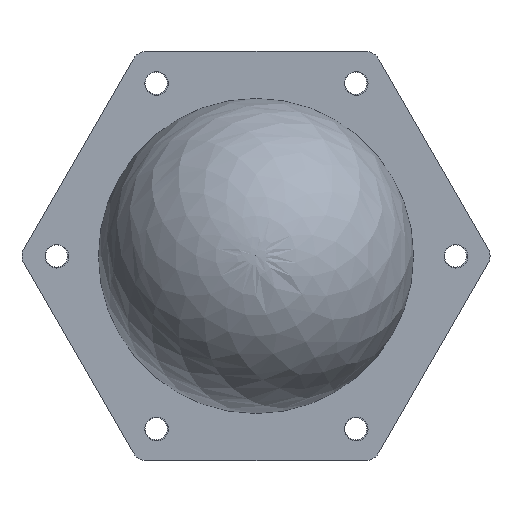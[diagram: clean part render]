
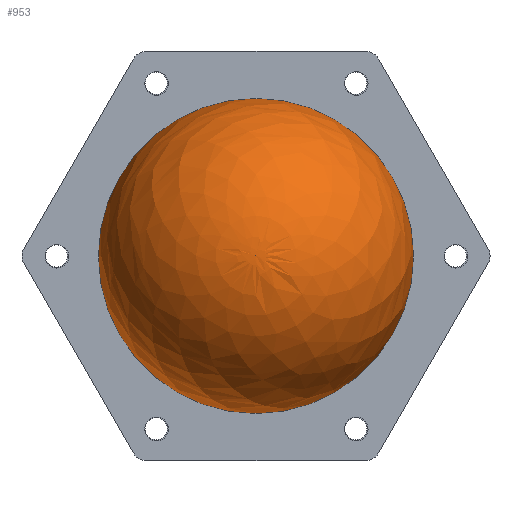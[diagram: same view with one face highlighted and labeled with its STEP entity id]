
A CAD part, top view. The second image highlights one B-rep face of the part: STEP entity #953.
In plain terms, the highlighted face is a revolution surface.
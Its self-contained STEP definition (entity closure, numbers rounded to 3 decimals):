
#314 = EDGE_CURVE('',#315,#315,#317,.T.);
#315 = VERTEX_POINT('',#316);
#316 = CARTESIAN_POINT('',(15.,-25.981,4.6));
#317 = CIRCLE('',#318,30.);
#318 = AXIS2_PLACEMENT_3D('',#319,#320,#321);
#319 = CARTESIAN_POINT('',(0.,0.,4.6));
#320 = DIRECTION('',(0.,0.,1.));
#321 = DIRECTION('',(0.5,-0.866,0.));
#953 = ADVANCED_FACE('',(#954),#967,.T.);
#954 = FACE_BOUND('',#955,.T.);
#955 = EDGE_LOOP('',(#956,#957,#966));
#956 = ORIENTED_EDGE('',*,*,#314,.T.);
#957 = ORIENTED_EDGE('',*,*,#958,.T.);
#958 = EDGE_CURVE('',#315,#959,#961,.T.);
#959 = VERTEX_POINT('',#960);
#960 = CARTESIAN_POINT('',(0.,0.,36.8));
#961 = B_SPLINE_CURVE_WITH_KNOTS('',3,(#962,#963,#964,#965),
  .UNSPECIFIED.,.F.,.F.,(4,4),(0.,1.),.PIECEWISE_BEZIER_KNOTS.);
#962 = CARTESIAN_POINT('',(15.,-25.981,4.6));
#963 = CARTESIAN_POINT('',(15.,-25.981,22.05));
#964 = CARTESIAN_POINT('',(8.5,-14.722,36.8));
#965 = CARTESIAN_POINT('',(0.,0.,36.8));
#966 = ORIENTED_EDGE('',*,*,#958,.F.);
#967 = SURFACE_OF_REVOLUTION('',#968,#973);
#968 = B_SPLINE_CURVE_WITH_KNOTS('',3,(#969,#970,#971,#972),
  .UNSPECIFIED.,.F.,.F.,(4,4),(0.,1.),.PIECEWISE_BEZIER_KNOTS.);
#969 = CARTESIAN_POINT('',(15.,-25.981,4.6));
#970 = CARTESIAN_POINT('',(15.,-25.981,22.05));
#971 = CARTESIAN_POINT('',(8.5,-14.722,36.8));
#972 = CARTESIAN_POINT('',(0.,0.,36.8));
#973 = AXIS1_PLACEMENT('',#974,#975);
#974 = CARTESIAN_POINT('',(0.,0.,1.8));
#975 = DIRECTION('',(0.,0.,1.));
